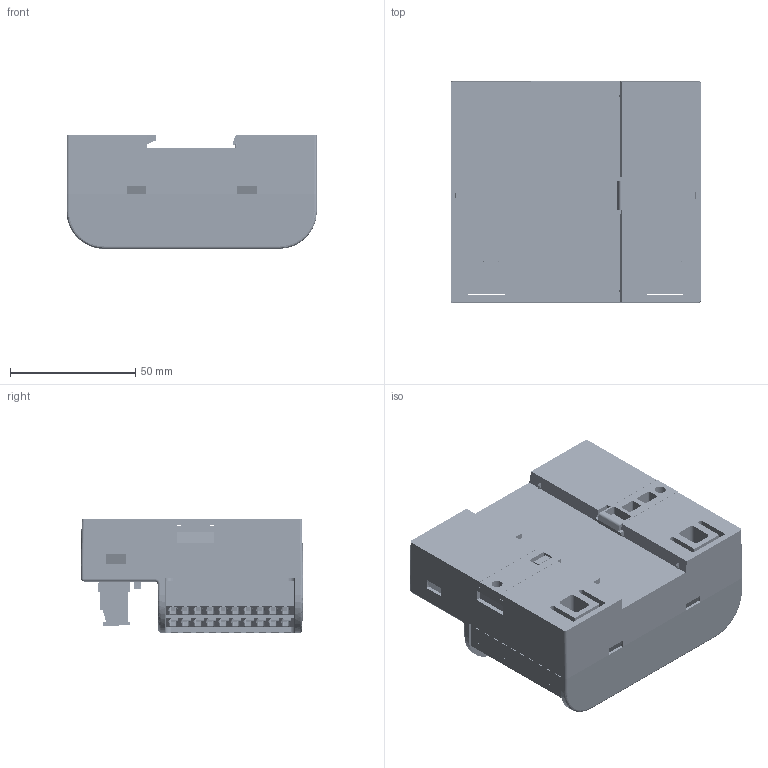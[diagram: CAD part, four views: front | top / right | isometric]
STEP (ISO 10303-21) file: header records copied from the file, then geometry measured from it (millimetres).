
FILE_DESCRIPTION(/* description */ (''),/* implementation_level */ '2;1');
FILE_NAME(/* name */ '22-152-1b.stp',/* time_stamp */ '2022-01-19T14:34:10+08:00',/* author */ (''),/* organization */ (''),/* preprocessor_version */ 'ST-DEVELOPER v16',/* originating_system */ 'SIEMENS PLM Software NX 10.0',/* authorisation */ '');
FILE_SCHEMA (('AP203_CONFIGURATION_CONTROLLED_3D_DESIGN_OF_MECHANICAL_PARTS_AND_ASSEMBLIES_MIM_LF { 1 0 10303 403 2 1 2}'));
Products named in the file (1): 73494D580734xm0x
Bounding box: 100.3 x 88.8 x 45.4 mm (x, y, z)
Volume: 287889 mm3; surface area: 122121.3 mm2
Topology: 34 solids, 455 shells, 22395 faces, 57397 edges, 35842 vertices
Faces by surface type: plane 12880, cylinder 5418, cone 2318, extrusion 1434, sphere 174, torus 109, bspline 62
Entity records: 683127 total; most frequent: CARTESIAN_POINT 137254, ORIENTED_EDGE 114450, DIRECTION 111010, EDGE_CURVE 57225, VECTOR 41088, LINE 39654, VERTEX_POINT 35842, AXIS2_PLACEMENT_3D 34961
